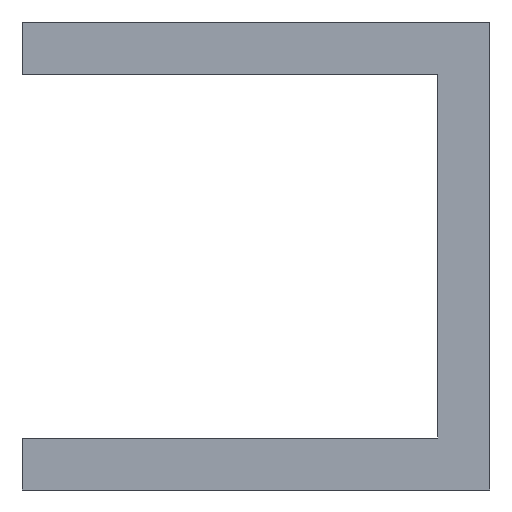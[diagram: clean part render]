
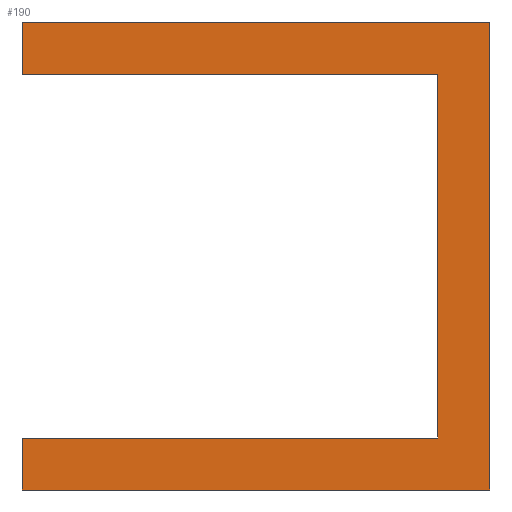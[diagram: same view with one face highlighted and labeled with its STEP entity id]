
A CAD part, front view. The second image highlights one B-rep face of the part: STEP entity #190.
In plain terms, the highlighted planar face has unit normal (0, -1, 0).
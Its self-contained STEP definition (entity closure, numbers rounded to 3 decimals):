
#24=FACE_OUTER_BOUND('',#34,.T.);
#34=EDGE_LOOP('',(#163,#164,#165,#166,#167,#168,#169,#170));
#35=LINE('',#265,#59);
#39=LINE('',#273,#63);
#42=LINE('',#279,#66);
#45=LINE('',#285,#69);
#48=LINE('',#291,#72);
#51=LINE('',#297,#75);
#54=LINE('',#303,#78);
#57=LINE('',#308,#81);
#59=VECTOR('',#219,10.);
#63=VECTOR('',#225,10.);
#66=VECTOR('',#230,10.);
#69=VECTOR('',#235,10.);
#72=VECTOR('',#240,10.);
#75=VECTOR('',#245,10.);
#78=VECTOR('',#250,10.);
#81=VECTOR('',#255,10.);
#83=VERTEX_POINT('',#263);
#84=VERTEX_POINT('',#264);
#87=VERTEX_POINT('',#272);
#89=VERTEX_POINT('',#278);
#91=VERTEX_POINT('',#284);
#93=VERTEX_POINT('',#290);
#95=VERTEX_POINT('',#296);
#97=VERTEX_POINT('',#302);
#99=EDGE_CURVE('',#83,#84,#35,.T.);
#103=EDGE_CURVE('',#83,#87,#39,.T.);
#106=EDGE_CURVE('',#87,#89,#42,.T.);
#109=EDGE_CURVE('',#89,#91,#45,.T.);
#112=EDGE_CURVE('',#91,#93,#48,.T.);
#115=EDGE_CURVE('',#93,#95,#51,.T.);
#118=EDGE_CURVE('',#97,#95,#54,.T.);
#121=EDGE_CURVE('',#84,#97,#57,.T.);
#163=ORIENTED_EDGE('',*,*,#121,.F.);
#164=ORIENTED_EDGE('',*,*,#99,.F.);
#165=ORIENTED_EDGE('',*,*,#103,.T.);
#166=ORIENTED_EDGE('',*,*,#106,.T.);
#167=ORIENTED_EDGE('',*,*,#109,.T.);
#168=ORIENTED_EDGE('',*,*,#112,.T.);
#169=ORIENTED_EDGE('',*,*,#115,.T.);
#170=ORIENTED_EDGE('',*,*,#118,.F.);
#180=PLANE('',#214);
#190=ADVANCED_FACE('',(#24),#180,.F.);
#214=AXIS2_PLACEMENT_3D('',#311,#259,#260);
#219=DIRECTION('',(1.,0.,0.));
#225=DIRECTION('',(0.,0.,-1.));
#230=DIRECTION('',(1.,0.,0.));
#235=DIRECTION('',(0.,0.,1.));
#240=DIRECTION('',(-1.,0.,0.));
#245=DIRECTION('',(0.,0.,-1.));
#250=DIRECTION('',(-1.,0.,0.));
#255=DIRECTION('',(0.,0.,1.));
#259=DIRECTION('center_axis',(0.,1.,0.));
#260=DIRECTION('ref_axis',(1.,0.,0.));
#263=CARTESIAN_POINT('',(0.,0.,1.));
#264=CARTESIAN_POINT('',(8.,0.,1.));
#265=CARTESIAN_POINT('',(0.,0.,1.));
#272=CARTESIAN_POINT('',(0.,0.,0.));
#273=CARTESIAN_POINT('',(0.,0.,1.));
#278=CARTESIAN_POINT('',(9.,0.,0.));
#279=CARTESIAN_POINT('',(0.,0.,0.));
#284=CARTESIAN_POINT('',(9.,0.,9.));
#285=CARTESIAN_POINT('',(9.,0.,0.));
#290=CARTESIAN_POINT('',(0.,0.,9.));
#291=CARTESIAN_POINT('',(9.,0.,9.));
#296=CARTESIAN_POINT('',(0.,0.,8.));
#297=CARTESIAN_POINT('',(0.,0.,9.));
#302=CARTESIAN_POINT('',(8.,0.,8.));
#303=CARTESIAN_POINT('',(8.,0.,8.));
#308=CARTESIAN_POINT('',(8.,0.,1.));
#311=CARTESIAN_POINT('Origin',(4.5,0.,4.5));
